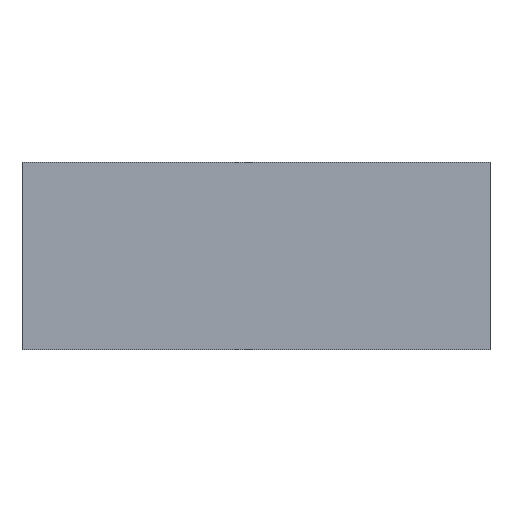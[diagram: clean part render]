
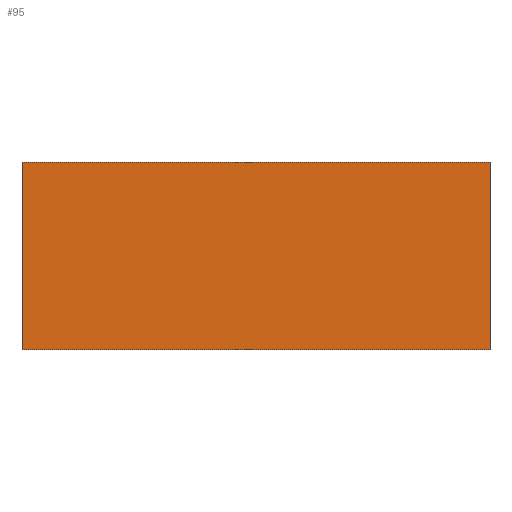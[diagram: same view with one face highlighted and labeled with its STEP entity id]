
A CAD part, top view. The second image highlights one B-rep face of the part: STEP entity #95.
In plain terms, the highlighted free-form (B-spline) face has degree [1, 1] with [2, 2] control points.
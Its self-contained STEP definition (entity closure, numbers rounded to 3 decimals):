
#95=ADVANCED_FACE('',(#241),#5450,.T.);
#241=FACE_OUTER_BOUND('',#387,.T.);
#387=EDGE_LOOP('',(#883,#884,#885,#886));
#883=ORIENTED_EDGE('',*,*,#3709,.F.);
#884=ORIENTED_EDGE('',*,*,#3706,.F.);
#885=ORIENTED_EDGE('',*,*,#3703,.F.);
#886=ORIENTED_EDGE('',*,*,#3699,.F.);
#1803=PCURVE('',#5446,#2643);
#1807=PCURVE('',#5447,#2647);
#1811=PCURVE('',#5448,#2651);
#1815=PCURVE('',#5449,#2655);
#1819=PCURVE('',#5450,#2659);
#1820=PCURVE('',#5450,#2660);
#1821=PCURVE('',#5450,#2661);
#1822=PCURVE('',#5450,#2662);
#2643=DEFINITIONAL_REPRESENTATION('',(#4480),#10927);
#2647=DEFINITIONAL_REPRESENTATION('',(#4488),#10927);
#2651=DEFINITIONAL_REPRESENTATION('',(#4495),#10927);
#2655=DEFINITIONAL_REPRESENTATION('',(#4502),#10927);
#2659=DEFINITIONAL_REPRESENTATION('',(#4507),#10927);
#2660=DEFINITIONAL_REPRESENTATION('',(#4508),#10927);
#2661=DEFINITIONAL_REPRESENTATION('',(#4509),#10927);
#2662=DEFINITIONAL_REPRESENTATION('',(#4510),#10927);
#3279=SURFACE_CURVE('',#4479,(#1803,#1822),.PCURVE_S1.);
#3283=SURFACE_CURVE('',#4487,(#1807,#1821),.PCURVE_S1.);
#3286=SURFACE_CURVE('',#4494,(#1811,#1820),.PCURVE_S1.);
#3289=SURFACE_CURVE('',#4501,(#1815,#1819),.PCURVE_S1.);
#3699=EDGE_CURVE('',#5216,#5217,#3279,.T.);
#3703=EDGE_CURVE('',#5217,#5220,#3283,.T.);
#3706=EDGE_CURVE('',#5220,#5222,#3286,.T.);
#3709=EDGE_CURVE('',#5222,#5216,#3289,.T.);
#4479=B_SPLINE_CURVE_WITH_KNOTS('',1,(#8243,#8244),.UNSPECIFIED.,.F.,.F.,
(2,2),(0.,498.266),.UNSPECIFIED.);
#4480=B_SPLINE_CURVE_WITH_KNOTS('',1,(#8245,#8246),.UNSPECIFIED.,.F.,.F.,
(2,2),(0.,498.266),.UNSPECIFIED.);
#4487=B_SPLINE_CURVE_WITH_KNOTS('',1,(#8259,#8260),.UNSPECIFIED.,.F.,.F.,
(2,2),(498.266,3749.168),.UNSPECIFIED.);
#4488=B_SPLINE_CURVE_WITH_KNOTS('',1,(#8261,#8262),.UNSPECIFIED.,.F.,.F.,
(2,2),(498.266,3749.168),.UNSPECIFIED.);
#4494=B_SPLINE_CURVE_WITH_KNOTS('',1,(#8273,#8274),.UNSPECIFIED.,.F.,.F.,
(2,2),(3749.168,4247.434),.UNSPECIFIED.);
#4495=B_SPLINE_CURVE_WITH_KNOTS('',1,(#8275,#8276),.UNSPECIFIED.,.F.,.F.,
(2,2),(3749.168,4247.434),.UNSPECIFIED.);
#4501=B_SPLINE_CURVE_WITH_KNOTS('',1,(#8287,#8288),.UNSPECIFIED.,.F.,.F.,
(2,2),(4247.434,7498.335),.UNSPECIFIED.);
#4502=B_SPLINE_CURVE_WITH_KNOTS('',1,(#8289,#8290),.UNSPECIFIED.,.F.,.F.,
(2,2),(4247.434,7498.335),.UNSPECIFIED.);
#4507=B_SPLINE_CURVE_WITH_KNOTS('',1,(#8299,#8300),.UNSPECIFIED.,.F.,.F.,
(2,2),(4247.434,7498.335),.UNSPECIFIED.);
#4508=B_SPLINE_CURVE_WITH_KNOTS('',1,(#8301,#8302),.UNSPECIFIED.,.F.,.F.,
(2,2),(3749.168,4247.434),.UNSPECIFIED.);
#4509=B_SPLINE_CURVE_WITH_KNOTS('',1,(#8303,#8304),.UNSPECIFIED.,.F.,.F.,
(2,2),(498.266,3749.168),.UNSPECIFIED.);
#4510=B_SPLINE_CURVE_WITH_KNOTS('',1,(#8305,#8306),.UNSPECIFIED.,.F.,.F.,
(2,2),(0.,498.266),.UNSPECIFIED.);
#5216=VERTEX_POINT('',#8235);
#5217=VERTEX_POINT('',#8236);
#5220=VERTEX_POINT('',#8239);
#5222=VERTEX_POINT('',#8241);
#5446=B_SPLINE_SURFACE_WITH_KNOTS('',1,1,((#8211,#8212),(#8213,#8214)),
 .UNSPECIFIED.,.F.,.F.,.F.,(2,2),(2,2),(0.,498.266),(0.,30.),
 .UNSPECIFIED.);
#5447=B_SPLINE_SURFACE_WITH_KNOTS('',1,1,((#8215,#8216),(#8217,#8218)),
 .UNSPECIFIED.,.F.,.F.,.F.,(2,2),(2,2),(498.266,3749.168),
(0.,30.),.UNSPECIFIED.);
#5448=B_SPLINE_SURFACE_WITH_KNOTS('',1,1,((#8219,#8220),(#8221,#8222)),
 .UNSPECIFIED.,.F.,.F.,.F.,(2,2),(2,2),(3749.168,4247.434),
(0.,30.),.UNSPECIFIED.);
#5449=B_SPLINE_SURFACE_WITH_KNOTS('',1,1,((#8223,#8224),(#8225,#8226)),
 .UNSPECIFIED.,.F.,.F.,.F.,(2,2),(2,2),(4247.434,7498.335),
(0.,30.),.UNSPECIFIED.);
#5450=B_SPLINE_SURFACE_WITH_KNOTS('',1,1,((#8227,#8228),(#8229,#8230)),
 .UNSPECIFIED.,.F.,.F.,.F.,(2,2),(2,2),(0.,2500.),(0.,1000.),
 .UNSPECIFIED.);
#8211=CARTESIAN_POINT('',(12965.532,-15088.18,666.097));
#8212=CARTESIAN_POINT('',(12965.532,-15088.18,636.097));
#8213=CARTESIAN_POINT('',(12965.532,-14088.18,666.097));
#8214=CARTESIAN_POINT('',(12965.532,-14088.18,636.097));
#8215=CARTESIAN_POINT('',(12965.532,-14088.18,666.097));
#8216=CARTESIAN_POINT('',(12965.532,-14088.18,636.097));
#8217=CARTESIAN_POINT('',(15465.532,-14088.18,666.097));
#8218=CARTESIAN_POINT('',(15465.532,-14088.18,636.097));
#8219=CARTESIAN_POINT('',(15465.532,-14088.18,666.097));
#8220=CARTESIAN_POINT('',(15465.532,-14088.18,636.097));
#8221=CARTESIAN_POINT('',(15465.532,-15088.18,666.097));
#8222=CARTESIAN_POINT('',(15465.532,-15088.18,636.097));
#8223=CARTESIAN_POINT('',(15465.532,-15088.18,666.097));
#8224=CARTESIAN_POINT('',(15465.532,-15088.18,636.097));
#8225=CARTESIAN_POINT('',(12965.532,-15088.18,666.097));
#8226=CARTESIAN_POINT('',(12965.532,-15088.18,636.097));
#8227=CARTESIAN_POINT('',(12965.532,-15088.18,666.097));
#8228=CARTESIAN_POINT('',(12965.532,-14088.18,666.097));
#8229=CARTESIAN_POINT('',(15465.532,-15088.18,666.097));
#8230=CARTESIAN_POINT('',(15465.532,-14088.18,666.097));
#8235=CARTESIAN_POINT('',(12965.532,-15088.18,666.097));
#8236=CARTESIAN_POINT('',(12965.532,-14088.18,666.097));
#8239=CARTESIAN_POINT('',(15465.532,-14088.18,666.097));
#8241=CARTESIAN_POINT('',(15465.532,-15088.18,666.097));
#8243=CARTESIAN_POINT('',(12965.532,-15088.18,666.097));
#8244=CARTESIAN_POINT('',(12965.532,-14088.18,666.097));
#8245=CARTESIAN_POINT('',(0.,0.));
#8246=CARTESIAN_POINT('',(498.266,0.));
#8259=CARTESIAN_POINT('',(12965.532,-14088.18,666.097));
#8260=CARTESIAN_POINT('',(15465.532,-14088.18,666.097));
#8261=CARTESIAN_POINT('',(498.266,0.));
#8262=CARTESIAN_POINT('',(3749.168,0.));
#8273=CARTESIAN_POINT('',(15465.532,-14088.18,666.097));
#8274=CARTESIAN_POINT('',(15465.532,-15088.18,666.097));
#8275=CARTESIAN_POINT('',(3749.168,0.));
#8276=CARTESIAN_POINT('',(4247.434,0.));
#8287=CARTESIAN_POINT('',(15465.532,-15088.18,666.097));
#8288=CARTESIAN_POINT('',(12965.532,-15088.18,666.097));
#8289=CARTESIAN_POINT('',(4247.434,0.));
#8290=CARTESIAN_POINT('',(7498.335,0.));
#8299=CARTESIAN_POINT('',(2500.,0.));
#8300=CARTESIAN_POINT('',(0.,0.));
#8301=CARTESIAN_POINT('',(2500.,1000.));
#8302=CARTESIAN_POINT('',(2500.,0.));
#8303=CARTESIAN_POINT('',(0.,1000.));
#8304=CARTESIAN_POINT('',(2500.,1000.));
#8305=CARTESIAN_POINT('',(0.,0.));
#8306=CARTESIAN_POINT('',(0.,1000.));
#10927=(
GEOMETRIC_REPRESENTATION_CONTEXT(2)
PARAMETRIC_REPRESENTATION_CONTEXT()
REPRESENTATION_CONTEXT('pspace','')
);
